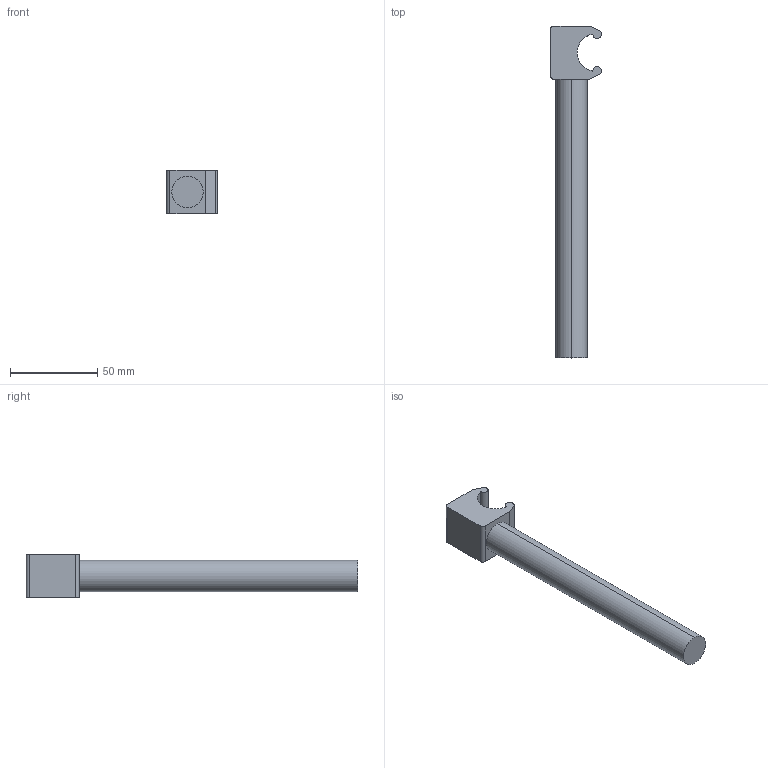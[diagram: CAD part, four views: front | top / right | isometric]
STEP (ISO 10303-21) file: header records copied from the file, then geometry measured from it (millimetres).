
FILE_DESCRIPTION (( 'STEP AP214' ), '1' );
FILE_NAME ('FGRL 18X160C.step', '2017-04-05T07:43:34', ( '' ), ( '' ), 'SwSTEP 2.0', 'SolidWorks 2015', '' );
FILE_SCHEMA (( 'AUTOMOTIVE_DESIGN' ));
Length unit declared in the file: millimetre
Products named in the file (1): FGRL 18X160C
Bounding box: 29.3 x 190.54 x 25 mm (x, y, z)
Volume: 56727 mm3; surface area: 13755.1 mm2
Topology: 1 solids, 1 shells, 16 faces, 39 edges, 26 vertices
Faces by surface type: cylinder 8, plane 8
Entity records: 513 total; most frequent: DIRECTION 89, CARTESIAN_POINT 82, ORIENTED_EDGE 78, EDGE_CURVE 39, AXIS2_PLACEMENT_3D 33, VERTEX_POINT 26, LINE 23, VECTOR 23
